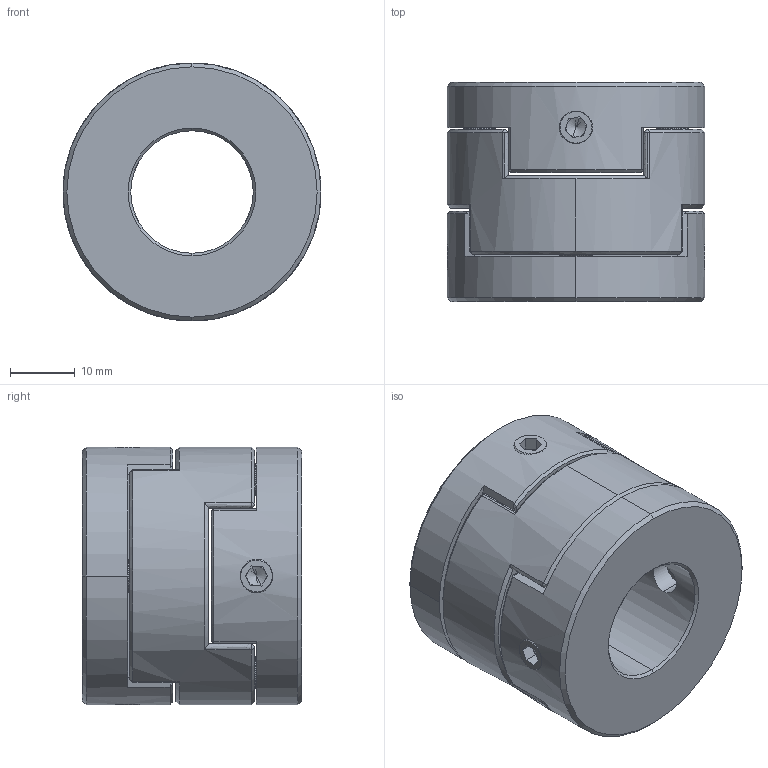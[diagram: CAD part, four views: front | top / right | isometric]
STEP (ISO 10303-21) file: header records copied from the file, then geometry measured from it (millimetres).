
FILE_DESCRIPTION (( 'STEP AP203' ), '1' );
FILE_NAME ('LZ-D-D40L35-19-20.STEP', '2021-10-30T05:26:46', ( '' ), ( '' ), 'SwSTEP 2.0', 'SolidWorks 2018', '' );
FILE_SCHEMA (( 'CONFIG_CONTROL_DESIGN' ));
Length unit declared in the file: millimetre
Products named in the file (1): LZ-D-D40L35-19-20
Bounding box: 40 x 34 x 40 mm (x, y, z)
Volume: 31240 mm3; surface area: 12151.5 mm2
Topology: 1 solids, 1 shells, 218 faces, 548 edges, 331 vertices
Faces by surface type: plane 89, bspline 55, cone 48, cylinder 26
Entity records: 7776 total; most frequent: CARTESIAN_POINT 3016, ORIENTED_EDGE 1080, DIRECTION 800, EDGE_CURVE 540, VERTEX_POINT 331, AXIS2_PLACEMENT_3D 290, EDGE_LOOP 243, LINE 220
